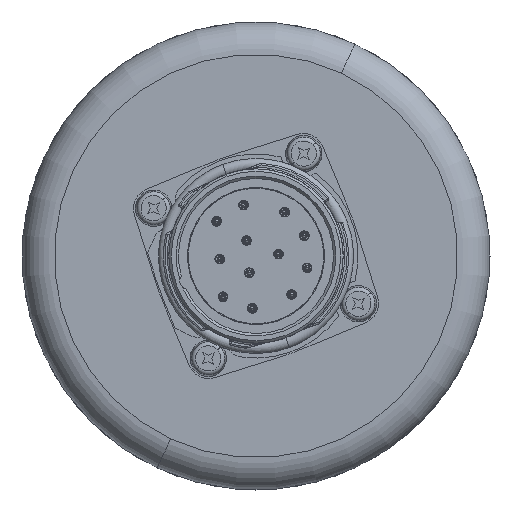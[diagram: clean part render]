
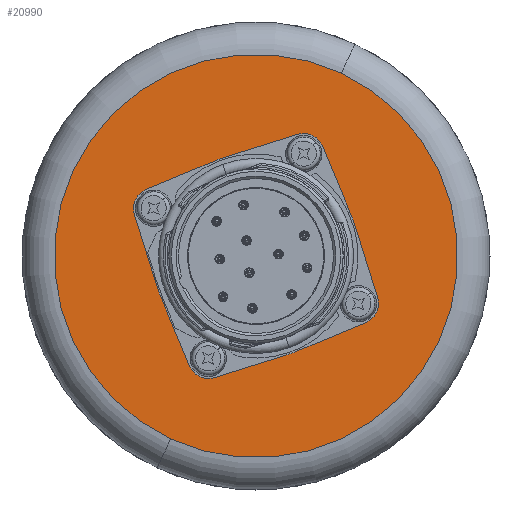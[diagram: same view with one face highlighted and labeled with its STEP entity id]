
A CAD part, left-side view. The second image highlights one B-rep face of the part: STEP entity #20990.
In plain terms, the highlighted planar face has unit normal (-1, 0, 0).
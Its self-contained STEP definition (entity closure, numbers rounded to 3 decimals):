
#10 = CARTESIAN_POINT ( 'NONE',  ( -25., 0., 0. ) ) ;
#176 = CARTESIAN_POINT ( 'NONE',  ( -25., -12.689, -5.917 ) ) ;
#183 = VERTEX_POINT ( 'NONE', #20134 ) ;
#195 = AXIS2_PLACEMENT_3D ( 'NONE', #19254, #7065, #21317 ) ;
#276 = DIRECTION ( 'NONE',  ( -1., 0., 0. ) ) ;
#368 = DIRECTION ( 'NONE',  ( 0., 0.423, -0.906 ) ) ;
#921 = CIRCLE ( 'NONE', #22425, 25. ) ;
#1231 = EDGE_CURVE ( 'NONE', #183, #2220, #2782, .T. ) ;
#1745 = DIRECTION ( 'NONE',  ( 0., 0.423, -0.906 ) ) ;
#1777 = CIRCLE ( 'NONE', #7040, 1.35 ) ;
#2086 = DIRECTION ( 'NONE',  ( 0., 0.423, -0.906 ) ) ;
#2187 = EDGE_LOOP ( 'NONE', ( #6895, #7184 ) ) ;
#2220 = VERTEX_POINT ( 'NONE', #9427 ) ;
#2733 = CARTESIAN_POINT ( 'NONE',  ( -25., -6.487, 13.912 ) ) ;
#2782 = CIRCLE ( 'NONE', #9206, 1.35 ) ;
#2993 = CARTESIAN_POINT ( 'NONE',  ( -25., 5.917, -12.689 ) ) ;
#3026 = CARTESIAN_POINT ( 'NONE',  ( -25., -5.917, 12.689 ) ) ;
#3428 = EDGE_CURVE ( 'NONE', #4760, #11083, #25290, .T. ) ;
#3542 = CIRCLE ( 'NONE', #18881, 1.35 ) ;
#3850 = CARTESIAN_POINT ( 'NONE',  ( -25., 10.565, -22.658 ) ) ;
#3899 = FACE_BOUND ( 'NONE', #16764, .T. ) ;
#4088 = VERTEX_POINT ( 'NONE', #8433 ) ;
#4191 = DIRECTION ( 'NONE',  ( -1., 0., 0. ) ) ;
#4273 = VERTEX_POINT ( 'NONE', #17606 ) ;
#4760 = VERTEX_POINT ( 'NONE', #13399 ) ;
#4969 = AXIS2_PLACEMENT_3D ( 'NONE', #20315, #8110, #22348 ) ;
#5067 = DIRECTION ( 'NONE',  ( 0., 0.423, -0.906 ) ) ;
#5095 = DIRECTION ( 'NONE',  ( 0., 0.423, -0.906 ) ) ;
#5920 = DIRECTION ( 'NONE',  ( -1., 0., 0. ) ) ;
#6054 = EDGE_LOOP ( 'NONE', ( #9613, #21374 ) ) ;
#6096 = DIRECTION ( 'NONE',  ( -1., 0., 0. ) ) ;
#6112 = VERTEX_POINT ( 'NONE', #21499 ) ;
#6297 = EDGE_CURVE ( 'NONE', #2220, #183, #3542, .T. ) ;
#6392 = AXIS2_PLACEMENT_3D ( 'NONE', #10, #14294, #2086 ) ;
#6698 = VERTEX_POINT ( 'NONE', #15675 ) ;
#6895 = ORIENTED_EDGE ( 'NONE', *, *, #26292, .F. ) ;
#7040 = AXIS2_PLACEMENT_3D ( 'NONE', #18280, #6096, #20331 ) ;
#7065 = DIRECTION ( 'NONE',  ( -1., 0., 0. ) ) ;
#7184 = ORIENTED_EDGE ( 'NONE', *, *, #18060, .F. ) ;
#7845 = DIRECTION ( 'NONE',  ( 0., -0.423, 0.906 ) ) ;
#8110 = DIRECTION ( 'NONE',  ( -1., 0., 0. ) ) ;
#8122 = DIRECTION ( 'NONE',  ( -1., 0., 0. ) ) ;
#8433 = CARTESIAN_POINT ( 'NONE',  ( -25., -5.346, 11.465 ) ) ;
#9206 = AXIS2_PLACEMENT_3D ( 'NONE', #176, #276, #368 ) ;
#9287 = ORIENTED_EDGE ( 'NONE', *, *, #13977, .F. ) ;
#9306 = FACE_BOUND ( 'NONE', #6054, .T. ) ;
#9364 = EDGE_CURVE ( 'NONE', #16051, #6112, #18274, .T. ) ;
#9427 = CARTESIAN_POINT ( 'NONE',  ( -25., -12.118, -7.14 ) ) ;
#9613 = ORIENTED_EDGE ( 'NONE', *, *, #9364, .F. ) ;
#9671 = EDGE_CURVE ( 'NONE', #25590, #4088, #16655, .T. ) ;
#9918 = AXIS2_PLACEMENT_3D ( 'NONE', #18121, #5920, #20169 ) ;
#9934 = AXIS2_PLACEMENT_3D ( 'NONE', #26126, #13931, #1745 ) ;
#10056 = AXIS2_PLACEMENT_3D ( 'NONE', #13918, #20051, #7845 ) ;
#10203 = CIRCLE ( 'NONE', #16746, 1.35 ) ;
#10468 = CARTESIAN_POINT ( 'NONE',  ( -25., 6.487, -13.912 ) ) ;
#11083 = VERTEX_POINT ( 'NONE', #19170 ) ;
#11201 = AXIS2_PLACEMENT_3D ( 'NONE', #16373, #4191, #18439 ) ;
#11327 = VERTEX_POINT ( 'NONE', #3850 ) ;
#12007 = DIRECTION ( 'NONE',  ( -1., 0., 0. ) ) ;
#13399 = CARTESIAN_POINT ( 'NONE',  ( -25., 4.226, -9.063 ) ) ;
#13650 = CARTESIAN_POINT ( 'NONE',  ( -25., -10.565, 22.658 ) ) ;
#13918 = CARTESIAN_POINT ( 'NONE',  ( -25., -26.283, -12.256 ) ) ;
#13931 = DIRECTION ( 'NONE',  ( -1., 0., 0. ) ) ;
#13977 = EDGE_CURVE ( 'NONE', #4088, #25590, #19687, .T. ) ;
#14219 = ORIENTED_EDGE ( 'NONE', *, *, #15417, .F. ) ;
#14294 = DIRECTION ( 'NONE',  ( -1., 0., 0. ) ) ;
#14369 = VERTEX_POINT ( 'NONE', #13650 ) ;
#14376 = CIRCLE ( 'NONE', #11201, 1.35 ) ;
#14739 = FACE_BOUND ( 'NONE', #2187, .T. ) ;
#14852 = ORIENTED_EDGE ( 'NONE', *, *, #1231, .F. ) ;
#14978 = CIRCLE ( 'NONE', #195, 25. ) ;
#15256 = ORIENTED_EDGE ( 'NONE', *, *, #24142, .T. ) ;
#15417 = EDGE_CURVE ( 'NONE', #11083, #4760, #23053, .T. ) ;
#15558 = ORIENTED_EDGE ( 'NONE', *, *, #3428, .F. ) ;
#15675 = CARTESIAN_POINT ( 'NONE',  ( -25., 12.118, 7.14 ) ) ;
#16051 = VERTEX_POINT ( 'NONE', #10468 ) ;
#16115 = FACE_BOUND ( 'NONE', #21302, .T. ) ;
#16373 = CARTESIAN_POINT ( 'NONE',  ( -25., 12.689, 5.917 ) ) ;
#16655 = CIRCLE ( 'NONE', #16734, 1.35 ) ;
#16734 = AXIS2_PLACEMENT_3D ( 'NONE', #3026, #17283, #5095 ) ;
#16746 = AXIS2_PLACEMENT_3D ( 'NONE', #2993, #17253, #5067 ) ;
#16764 = EDGE_LOOP ( 'NONE', ( #26352, #14852 ) ) ;
#17018 = EDGE_LOOP ( 'NONE', ( #15558, #14219 ) ) ;
#17253 = DIRECTION ( 'NONE',  ( -1., 0., 0. ) ) ;
#17258 = EDGE_LOOP ( 'NONE', ( #22230, #15256 ) ) ;
#17283 = DIRECTION ( 'NONE',  ( -1., 0., 0. ) ) ;
#17606 = CARTESIAN_POINT ( 'NONE',  ( -25., 13.259, 4.693 ) ) ;
#17916 = PLANE ( 'NONE',  #10056 ) ;
#18060 = EDGE_CURVE ( 'NONE', #6698, #4273, #14376, .T. ) ;
#18121 = CARTESIAN_POINT ( 'NONE',  ( -25., -5.917, 12.689 ) ) ;
#18274 = CIRCLE ( 'NONE', #4969, 1.35 ) ;
#18280 = CARTESIAN_POINT ( 'NONE',  ( -25., 12.689, 5.917 ) ) ;
#18439 = DIRECTION ( 'NONE',  ( 0., 0.423, -0.906 ) ) ;
#18440 = ORIENTED_EDGE ( 'NONE', *, *, #9671, .F. ) ;
#18881 = AXIS2_PLACEMENT_3D ( 'NONE', #20335, #8122, #22358 ) ;
#19170 = CARTESIAN_POINT ( 'NONE',  ( -25., -4.226, 9.063 ) ) ;
#19254 = CARTESIAN_POINT ( 'NONE',  ( -25., 0., 0. ) ) ;
#19501 = FACE_OUTER_BOUND ( 'NONE', #17258, .T. ) ;
#19687 = CIRCLE ( 'NONE', #9918, 1.35 ) ;
#20051 = DIRECTION ( 'NONE',  ( 1., 0., 0. ) ) ;
#20134 = CARTESIAN_POINT ( 'NONE',  ( -25., -13.259, -4.693 ) ) ;
#20169 = DIRECTION ( 'NONE',  ( 0., 0.423, -0.906 ) ) ;
#20315 = CARTESIAN_POINT ( 'NONE',  ( -25., 5.917, -12.689 ) ) ;
#20331 = DIRECTION ( 'NONE',  ( 0., 0.423, -0.906 ) ) ;
#20335 = CARTESIAN_POINT ( 'NONE',  ( -25., -12.689, -5.917 ) ) ;
#20990 = ADVANCED_FACE ( 'NONE', ( #16115, #14739, #9306, #3899, #24900, #19501 ), #17916, .F. ) ;
#21302 = EDGE_LOOP ( 'NONE', ( #9287, #18440 ) ) ;
#21317 = DIRECTION ( 'NONE',  ( 0., -0.423, 0.906 ) ) ;
#21374 = ORIENTED_EDGE ( 'NONE', *, *, #21771, .F. ) ;
#21499 = CARTESIAN_POINT ( 'NONE',  ( -25., 5.346, -11.465 ) ) ;
#21771 = EDGE_CURVE ( 'NONE', #6112, #16051, #10203, .T. ) ;
#22230 = ORIENTED_EDGE ( 'NONE', *, *, #22270, .T. ) ;
#22270 = EDGE_CURVE ( 'NONE', #14369, #11327, #14978, .T. ) ;
#22348 = DIRECTION ( 'NONE',  ( 0., 0.423, -0.906 ) ) ;
#22358 = DIRECTION ( 'NONE',  ( 0., 0.423, -0.906 ) ) ;
#22425 = AXIS2_PLACEMENT_3D ( 'NONE', #24212, #12007, #26281 ) ;
#23053 = CIRCLE ( 'NONE', #6392, 10. ) ;
#24142 = EDGE_CURVE ( 'NONE', #11327, #14369, #921, .T. ) ;
#24212 = CARTESIAN_POINT ( 'NONE',  ( -25., 0., 0. ) ) ;
#24900 = FACE_BOUND ( 'NONE', #17018, .T. ) ;
#25290 = CIRCLE ( 'NONE', #9934, 10. ) ;
#25590 = VERTEX_POINT ( 'NONE', #2733 ) ;
#26126 = CARTESIAN_POINT ( 'NONE',  ( -25., 0., 0. ) ) ;
#26281 = DIRECTION ( 'NONE',  ( 0., -0.423, 0.906 ) ) ;
#26292 = EDGE_CURVE ( 'NONE', #4273, #6698, #1777, .T. ) ;
#26352 = ORIENTED_EDGE ( 'NONE', *, *, #6297, .F. ) ;
